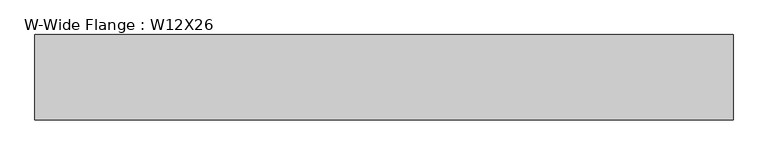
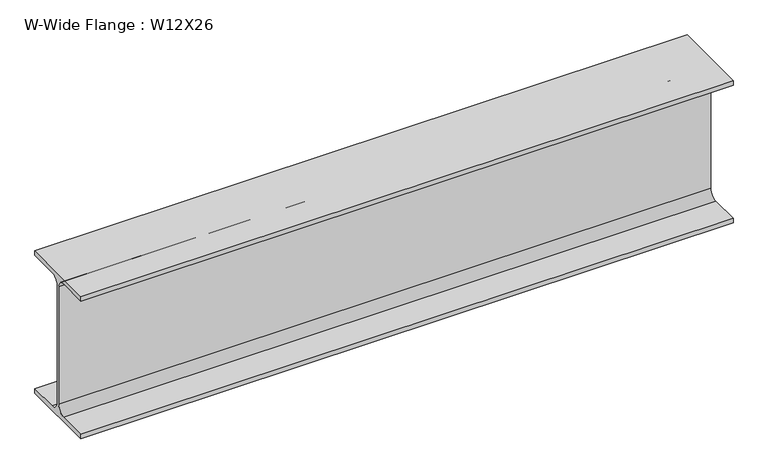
"""IFC4 building model written with IfcOpenShell, lengths in millimetres: beam geometry, W-Wide Flange : W12X26."""

from ifc_helpers import new_model, si_unit, point, frame, frame_2d, origin, place, context, project, spatial, polyline, circle_curve, trimmed, segment, composite_curve, outline, extrude, source, transform, mapped, element, save


def w_wide_flange_w12x26_c8fad4fd(model_context):
    return source(origin(), model_context, "Body", "SweptSolid", [
        extrude(outline(composite_curve([segment(polyline([(-82.4011719, -145.5539063), (-20.2902344, -145.5539063)]), True, "CONTINUOUS"), segment(trimmed(circle_curve(frame_2d((-20.2902344, -128.190625)), 17.3632812), [point((-20.2902344, -145.5539063))], [point((-2.9269531, -128.190625))], True, "CARTESIAN"), True, "CONTINUOUS"), segment(polyline([(-2.9269531, -128.190625), (-2.9269531, 128.190625)]), True, "CONTINUOUS"), segment(trimmed(circle_curve(frame_2d((-20.2902344, 128.190625)), 17.3632812), [point((-2.9269531, 128.190625))], [point((-20.2902344, 145.5539062))], True, "CARTESIAN"), True, "CONTINUOUS"), segment(polyline([(-20.2902344, 145.5539062), (-82.4011719, 145.5539062), (-82.4011719, 155.178125), (82.4011719, 155.178125), (82.4011719, 145.5539062), (20.2902344, 145.5539062)]), True, "CONTINUOUS"), segment(trimmed(circle_curve(frame_2d((20.2902344, 128.190625)), 17.3632812), [point((20.2902344, 145.5539062))], [point((2.9269531, 128.190625))], True, "CARTESIAN"), True, "CONTINUOUS"), segment(polyline([(2.9269531, 128.190625), (2.9269531, -128.190625)]), True, "CONTINUOUS"), segment(trimmed(circle_curve(frame_2d((20.2902344, -128.190625)), 17.3632812), [point((2.9269531, -128.190625))], [point((20.2902344, -145.5539063))], True, "CARTESIAN"), True, "CONTINUOUS"), segment(polyline([(20.2902344, -145.5539063), (82.4011719, -145.5539063), (82.4011719, -155.178125), (-82.4011719, -155.178125), (-82.4011719, -145.5539063)]), True, "CONTINUOUS")], self_intersect=False)), frame((-666.8988281, 0.0, 0.0), z_axis=(1.0, 0.0, 0.0), x_axis=(0.0, 1.0, 0.0)), (0.0, 0.0, 1.0), 1346.3488281),
    ])


if __name__ == "__main__":
    model = new_model("IFC4")
    model_context = context("Model", 3, world=origin())
    ifc_project = project(units=[si_unit("LENGTHUNIT", "METRE", prefix="MILLI")], contexts=[model_context])
    site = spatial("IfcSite", under=ifc_project)
    building = spatial("IfcBuilding", under=site)
    placement = place(None, origin())
    w_wide_flange_w12x26_shape = w_wide_flange_w12x26_c8fad4fd(model_context)
    element("IfcBeam", 1, ObjectType="W-Wide Flange : W12X26", at=placement, inside=building, context=model_context, shape_type="MappedRepresentation", body=[
        mapped(w_wide_flange_w12x26_shape, transform((0.0, 0.0, 0.0), x_axis=(1.0, 0.0, 0.0), y_axis=(0.0, 1.0, 0.0), z_axis=(0.0, 0.0, 1.0))),
    ])
    save(model, "model.ifc")
